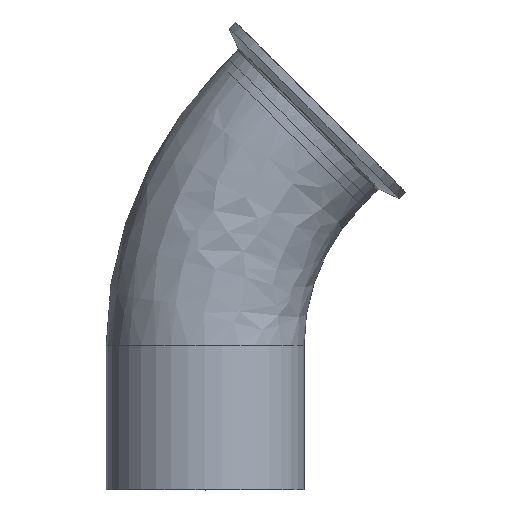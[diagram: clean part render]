
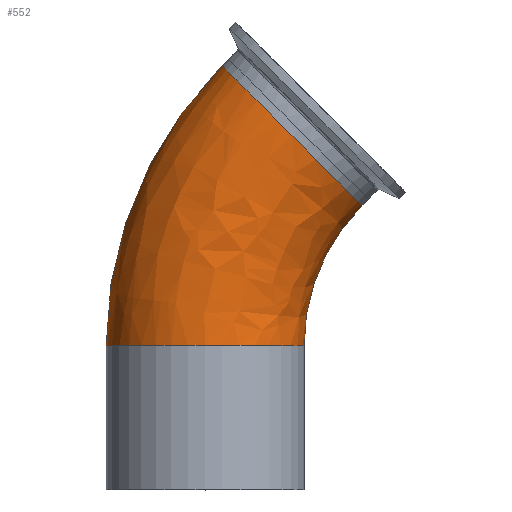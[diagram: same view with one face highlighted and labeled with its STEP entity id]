
A CAD part, top view. The second image highlights one B-rep face of the part: STEP entity #552.
In plain terms, the highlighted free-form (B-spline) face has degree [3, 3] with [4, 4] control points.
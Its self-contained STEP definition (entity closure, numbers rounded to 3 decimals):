
#17 = CARTESIAN_POINT ( 'NONE',  ( -18.693, 111.908, 0. ) ) ;
#19 = AXIS2_PLACEMENT_3D ( 'NONE', #583, #466, #736 ) ;
#105 = VERTEX_POINT ( 'NONE', #1795 ) ;
#251 = CARTESIAN_POINT ( 'NONE',  ( 5.433, 136.034, 0. ) ) ;
#300 = VERTEX_POINT ( 'NONE', #1730 ) ;
#331 = AXIS2_PLACEMENT_3D ( 'NONE', #1703, #1289, #1467 ) ;
#465 = CIRCLE ( 'NONE', #534, 31.75 ) ;
#466 = DIRECTION ( 'NONE',  ( 0., 0., -1. ) ) ;
#488 = CIRCLE ( 'NONE', #331, 63.45 ) ;
#534 = AXIS2_PLACEMENT_3D ( 'NONE', #584, #708, #702 ) ;
#552 = ADVANCED_FACE ( 'NONE', ( #969 ), #599, .T. ) ;
#583 = CARTESIAN_POINT ( 'NONE',  ( 95.2, 46.267, 0. ) ) ;
#584 = CARTESIAN_POINT ( 'NONE',  ( 0., 46.267, 0. ) ) ;
#599 =( BOUNDED_SURFACE ( )  B_SPLINE_SURFACE ( 3, 3, ( 
 ( #1619, #1632, #17, #1609 ),
 ( #1602, #1586, #1582, #1574 ),
 ( #1564, #1557, #1514, #1508 ),
 ( #1503, #1495, #1490, #1485 ) ),
 .UNSPECIFIED., .F., .F., .F. ) 
 B_SPLINE_SURFACE_WITH_KNOTS ( ( 4, 4 ),
 ( 4, 4 ),
 ( 0., 1. ),
 ( 0., 1. ),
 .UNSPECIFIED. ) 
 GEOMETRIC_REPRESENTATION_ITEM ( )  RATIONAL_B_SPLINE_SURFACE ( (
 ( 1., 0.949, 0.949, 1.),
 ( 0.333, 0.316, 0.316, 0.333),
 ( 0.333, 0.316, 0.316, 0.333),
 ( 1., 0.949, 0.949, 1.) ) ) 
 REPRESENTATION_ITEM ( '' )  SURFACE ( )  );
#611 = VERTEX_POINT ( 'NONE', #1070 ) ;
#702 = DIRECTION ( 'NONE',  ( -1., 0., 0. ) ) ;
#708 = DIRECTION ( 'NONE',  ( 0., 1., 0. ) ) ;
#711 = CIRCLE ( 'NONE', #19, 126.95 ) ;
#736 = DIRECTION ( 'NONE',  ( -1., 0., 0. ) ) ;
#759 = AXIS2_PLACEMENT_3D ( 'NONE', #1150, #1006, #1024 ) ;
#791 = CIRCLE ( 'NONE', #759, 31.75 ) ;
#844 = EDGE_CURVE ( 'NONE', #300, #1207, #711, .T. ) ;
#884 = EDGE_CURVE ( 'NONE', #611, #105, #488, .T. ) ;
#915 = ORIENTED_EDGE ( 'NONE', *, *, #1237, .T. ) ;
#928 = ORIENTED_EDGE ( 'NONE', *, *, #1287, .T. ) ;
#969 = FACE_OUTER_BOUND ( 'NONE', #1709, .T. ) ;
#1006 = DIRECTION ( 'NONE',  ( -0.707, -0.707, 0. ) ) ;
#1024 = DIRECTION ( 'NONE',  ( -0.707, 0.707, 0. ) ) ;
#1044 = ORIENTED_EDGE ( 'NONE', *, *, #844, .F. ) ;
#1070 = CARTESIAN_POINT ( 'NONE',  ( 31.75, 46.267, 0. ) ) ;
#1150 = CARTESIAN_POINT ( 'NONE',  ( 27.883, 113.583, 0. ) ) ;
#1207 = VERTEX_POINT ( 'NONE', #251 ) ;
#1237 = EDGE_CURVE ( 'NONE', #300, #611, #465, .T. ) ;
#1287 = EDGE_CURVE ( 'NONE', #105, #1207, #791, .T. ) ;
#1289 = DIRECTION ( 'NONE',  ( 0., 0., -1. ) ) ;
#1313 = ORIENTED_EDGE ( 'NONE', *, *, #884, .T. ) ;
#1467 = DIRECTION ( 'NONE',  ( -1., 0., 0. ) ) ;
#1485 = CARTESIAN_POINT ( 'NONE',  ( 50.334, 91.133, 0. ) ) ;
#1490 = CARTESIAN_POINT ( 'NONE',  ( 38.276, 79.075, 0. ) ) ;
#1495 = CARTESIAN_POINT ( 'NONE',  ( 31.75, 63.32, 0. ) ) ;
#1503 = CARTESIAN_POINT ( 'NONE',  ( 31.75, 46.267, 0. ) ) ;
#1508 = CARTESIAN_POINT ( 'NONE',  ( 50.334, 91.133, 63.5 ) ) ;
#1514 = CARTESIAN_POINT ( 'NONE',  ( 38.276, 79.075, 63.5 ) ) ;
#1557 = CARTESIAN_POINT ( 'NONE',  ( 31.75, 63.32, 63.5 ) ) ;
#1564 = CARTESIAN_POINT ( 'NONE',  ( 31.75, 46.267, 63.5 ) ) ;
#1574 = CARTESIAN_POINT ( 'NONE',  ( 5.433, 136.034, 63.5 ) ) ;
#1582 = CARTESIAN_POINT ( 'NONE',  ( -18.693, 111.908, 63.5 ) ) ;
#1586 = CARTESIAN_POINT ( 'NONE',  ( -31.75, 80.386, 63.5 ) ) ;
#1602 = CARTESIAN_POINT ( 'NONE',  ( -31.75, 46.267, 63.5 ) ) ;
#1609 = CARTESIAN_POINT ( 'NONE',  ( 5.433, 136.034, 0. ) ) ;
#1619 = CARTESIAN_POINT ( 'NONE',  ( -31.75, 46.267, 0. ) ) ;
#1632 = CARTESIAN_POINT ( 'NONE',  ( -31.75, 80.386, 0. ) ) ;
#1703 = CARTESIAN_POINT ( 'NONE',  ( 95.2, 46.267, 0. ) ) ;
#1709 = EDGE_LOOP ( 'NONE', ( #915, #1313, #928, #1044 ) ) ;
#1730 = CARTESIAN_POINT ( 'NONE',  ( -31.75, 46.267, 0. ) ) ;
#1795 = CARTESIAN_POINT ( 'NONE',  ( 50.334, 91.133, 0. ) ) ;
